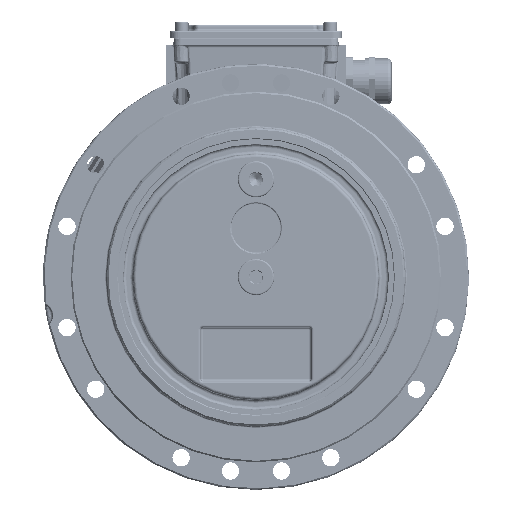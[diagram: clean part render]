
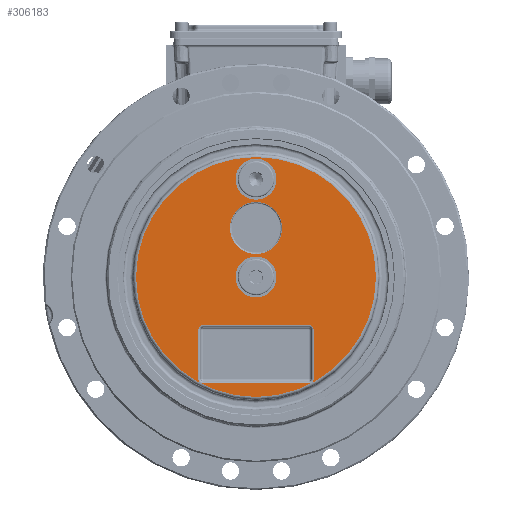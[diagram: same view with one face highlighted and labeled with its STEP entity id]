
A CAD part, front view. The second image highlights one B-rep face of the part: STEP entity #306183.
In plain terms, the highlighted planar face has unit normal (0, -1, 0).
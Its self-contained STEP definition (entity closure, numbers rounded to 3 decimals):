
#21912=LINE('',#561563,#43887);
#21913=LINE('',#561567,#43888);
#21914=LINE('',#561571,#43889);
#21915=LINE('',#561575,#43890);
#43887=VECTOR('',#385809,1.);
#43888=VECTOR('',#385812,1.);
#43889=VECTOR('',#385815,1.);
#43890=VECTOR('',#385818,1.);
#61642=FACE_BOUND('',#86612,.T.);
#61643=FACE_BOUND('',#86613,.T.);
#61644=FACE_BOUND('',#86614,.T.);
#61645=FACE_BOUND('',#86615,.T.);
#68968=FACE_OUTER_BOUND('',#86611,.T.);
#86611=EDGE_LOOP('',(#220126));
#86612=EDGE_LOOP('',(#220127));
#86613=EDGE_LOOP('',(#220128));
#86614=EDGE_LOOP('',(#220129));
#86615=EDGE_LOOP('',(#220130,#220131,#220132,#220133,#220134,#220135,#220136,
#220137));
#105725=CIRCLE('',#330842,76.);
#105726=CIRCLE('',#330843,13.);
#105727=CIRCLE('',#330844,13.);
#105728=CIRCLE('',#330845,16.5);
#105729=CIRCLE('',#330846,3.);
#105730=CIRCLE('',#330847,3.);
#105731=CIRCLE('',#330848,3.);
#105732=CIRCLE('',#330849,3.);
#126237=VERTEX_POINT('',#561553);
#126238=VERTEX_POINT('',#561555);
#126239=VERTEX_POINT('',#561557);
#126240=VERTEX_POINT('',#561559);
#126241=VERTEX_POINT('',#561561);
#126242=VERTEX_POINT('',#561562);
#126243=VERTEX_POINT('',#561564);
#126244=VERTEX_POINT('',#561566);
#126245=VERTEX_POINT('',#561568);
#126246=VERTEX_POINT('',#561570);
#126247=VERTEX_POINT('',#561572);
#126248=VERTEX_POINT('',#561574);
#160789=EDGE_CURVE('',#126237,#126237,#105725,.T.);
#160790=EDGE_CURVE('',#126238,#126238,#105726,.T.);
#160791=EDGE_CURVE('',#126239,#126239,#105727,.T.);
#160792=EDGE_CURVE('',#126240,#126240,#105728,.T.);
#160793=EDGE_CURVE('',#126241,#126242,#21912,.T.);
#160794=EDGE_CURVE('',#126242,#126243,#105729,.T.);
#160795=EDGE_CURVE('',#126243,#126244,#21913,.T.);
#160796=EDGE_CURVE('',#126244,#126245,#105730,.T.);
#160797=EDGE_CURVE('',#126245,#126246,#21914,.T.);
#160798=EDGE_CURVE('',#126246,#126247,#105731,.T.);
#160799=EDGE_CURVE('',#126247,#126248,#21915,.T.);
#160800=EDGE_CURVE('',#126248,#126241,#105732,.T.);
#220126=ORIENTED_EDGE('',*,*,#160789,.T.);
#220127=ORIENTED_EDGE('',*,*,#160790,.T.);
#220128=ORIENTED_EDGE('',*,*,#160791,.T.);
#220129=ORIENTED_EDGE('',*,*,#160792,.T.);
#220130=ORIENTED_EDGE('',*,*,#160793,.T.);
#220131=ORIENTED_EDGE('',*,*,#160794,.T.);
#220132=ORIENTED_EDGE('',*,*,#160795,.T.);
#220133=ORIENTED_EDGE('',*,*,#160796,.T.);
#220134=ORIENTED_EDGE('',*,*,#160797,.T.);
#220135=ORIENTED_EDGE('',*,*,#160798,.T.);
#220136=ORIENTED_EDGE('',*,*,#160799,.T.);
#220137=ORIENTED_EDGE('',*,*,#160800,.T.);
#277766=PLANE('',#330841);
#306183=ADVANCED_FACE('',(#68968,#61642,#61643,#61644,#61645),#277766,.T.);
#330841=AXIS2_PLACEMENT_3D('',#561552,#385799,#385800);
#330842=AXIS2_PLACEMENT_3D('',#561554,#385801,#385802);
#330843=AXIS2_PLACEMENT_3D('',#561556,#385803,#385804);
#330844=AXIS2_PLACEMENT_3D('',#561558,#385805,#385806);
#330845=AXIS2_PLACEMENT_3D('',#561560,#385807,#385808);
#330846=AXIS2_PLACEMENT_3D('',#561565,#385810,#385811);
#330847=AXIS2_PLACEMENT_3D('',#561569,#385813,#385814);
#330848=AXIS2_PLACEMENT_3D('',#561573,#385816,#385817);
#330849=AXIS2_PLACEMENT_3D('',#561576,#385819,#385820);
#385799=DIRECTION('center_axis',(0.,-1.,0.));
#385800=DIRECTION('ref_axis',(0.,0.,
1.));
#385801=DIRECTION('center_axis',(0.,-1.,0.));
#385802=DIRECTION('ref_axis',(0.,0.,
1.));
#385803=DIRECTION('center_axis',(0.,1.,0.));
#385804=DIRECTION('ref_axis',(0.,0.,
-1.));
#385805=DIRECTION('center_axis',(0.,1.,0.));
#385806=DIRECTION('ref_axis',(0.,0.,
-1.));
#385807=DIRECTION('center_axis',(0.,1.,0.));
#385808=DIRECTION('ref_axis',(0.,0.,
1.));
#385809=DIRECTION('',(0.,0.,-1.));
#385810=DIRECTION('center_axis',(0.,1.,0.));
#385811=DIRECTION('ref_axis',(0.,0.,
1.));
#385812=DIRECTION('',(-1.,0.,0.));
#385813=DIRECTION('center_axis',(0.,1.,0.));
#385814=DIRECTION('ref_axis',(0.,0.,
1.));
#385815=DIRECTION('',(0.,0.,1.));
#385816=DIRECTION('center_axis',(0.,1.,0.));
#385817=DIRECTION('ref_axis',(0.,0.,
1.));
#385818=DIRECTION('',(1.,0.,0.));
#385819=DIRECTION('center_axis',(0.,1.,0.));
#385820=DIRECTION('ref_axis',(0.,0.,
1.));
#561552=CARTESIAN_POINT('Origin',(-78.,-182.5,0.));
#561553=CARTESIAN_POINT('',(0.,-182.5,-76.));
#561554=CARTESIAN_POINT('Origin',(0.,-182.5,0.));
#561555=CARTESIAN_POINT('',(0.,-182.5,75.));
#561556=CARTESIAN_POINT('Origin',(0.,-182.5,62.));
#561557=CARTESIAN_POINT('',(0.,-182.5,13.));
#561558=CARTESIAN_POINT('Origin',(0.,-182.5,0.));
#561559=CARTESIAN_POINT('',(0.,-182.5,14.5));
#561560=CARTESIAN_POINT('Origin',(0.,-182.5,31.));
#561561=CARTESIAN_POINT('',(36.5,-182.5,-33.5));
#561562=CARTESIAN_POINT('',(36.5,-182.5,-64.5));
#561563=CARTESIAN_POINT('',(36.5,-182.5,0.));
#561564=CARTESIAN_POINT('',(33.5,-182.5,-67.5));
#561565=CARTESIAN_POINT('Origin',(33.5,-182.5,-64.5));
#561566=CARTESIAN_POINT('',(-33.5,-182.5,-67.5));
#561567=CARTESIAN_POINT('',(-78.,-182.5,-67.5));
#561568=CARTESIAN_POINT('',(-36.5,-182.5,-64.5));
#561569=CARTESIAN_POINT('Origin',(-33.5,-182.5,-64.5));
#561570=CARTESIAN_POINT('',(-36.5,-182.5,-33.5));
#561571=CARTESIAN_POINT('',(-36.5,-182.5,0.));
#561572=CARTESIAN_POINT('',(-33.5,-182.5,-30.5));
#561573=CARTESIAN_POINT('Origin',(-33.5,-182.5,-33.5));
#561574=CARTESIAN_POINT('',(33.5,-182.5,-30.5));
#561575=CARTESIAN_POINT('',(-78.,-182.5,-30.5));
#561576=CARTESIAN_POINT('Origin',(33.5,-182.5,-33.5));
